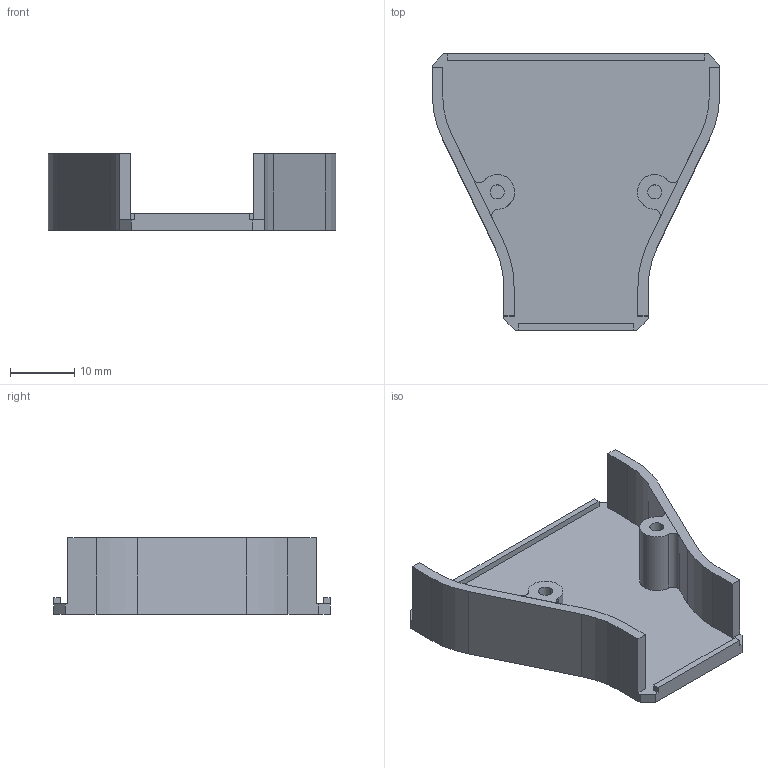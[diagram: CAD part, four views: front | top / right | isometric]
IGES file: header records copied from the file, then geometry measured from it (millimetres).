
Start section: START RECORD GO HERE.
Global section: file name: Unterteil.igs; native system: IBM CATIA IGES - CATIA Version 5 Release 19 ; preprocessor: CATIA Version 5 Release 19 ; author: Administrator; organization: M0000815; date: 20240107.231852; units: millimetre
Bounding box: 44.7 x 43 x 11.9 mm (x, y, z)
Surface area: 5296.4 mm2 (no closed solid volume)
Topology: 0 solids, 0 shells, 58 faces, 324 edges, 324 vertices
Faces by surface type: plane 38, revolution 20
